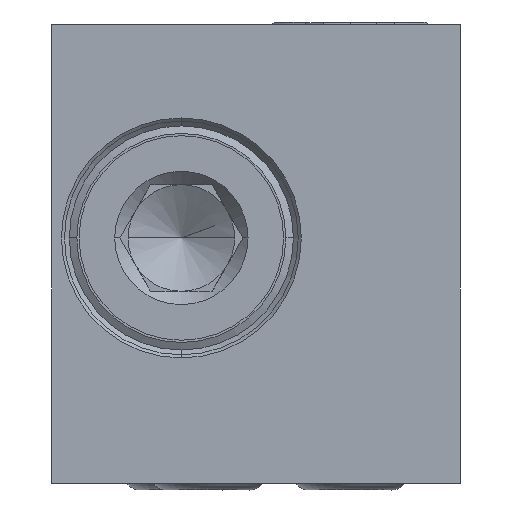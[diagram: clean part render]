
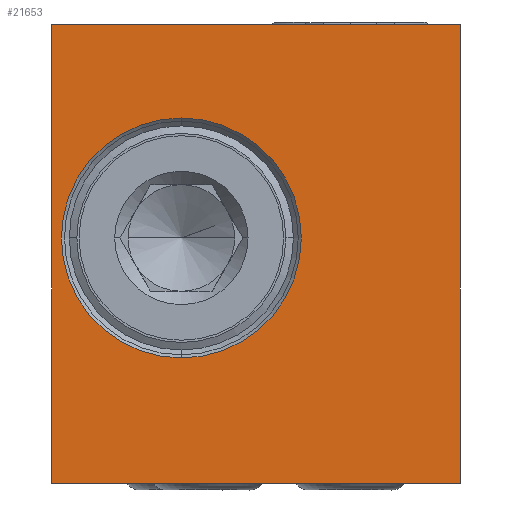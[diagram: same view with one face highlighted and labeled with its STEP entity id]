
A CAD part, left-side view. The second image highlights one B-rep face of the part: STEP entity #21653.
In plain terms, the highlighted planar face has unit normal (-1, 0, 0).
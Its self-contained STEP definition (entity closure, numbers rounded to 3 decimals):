
#3981=DIRECTION('',(0.,0.,1.));
#3982=VECTOR('',#3981,25.8);
#3983=CARTESIAN_POINT('',(-38.,11.5,-12.9));
#3984=LINE('',#3983,#3982);
#3985=DIRECTION('',(0.,-1.,0.));
#3986=VECTOR('',#3985,23.);
#3987=CARTESIAN_POINT('',(-38.,11.5,12.9));
#3988=LINE('',#3987,#3986);
#3989=DIRECTION('',(0.,0.,-1.));
#3990=VECTOR('',#3989,25.8);
#3991=CARTESIAN_POINT('',(-38.,-11.5,12.9));
#3992=LINE('',#3991,#3990);
#3993=DIRECTION('',(0.,1.,0.));
#3994=VECTOR('',#3993,23.);
#3995=CARTESIAN_POINT('',(-38.,-11.5,-12.9));
#3996=LINE('',#3995,#3994);
#3997=CARTESIAN_POINT('',(-38.,4.2,0.9));
#3998=DIRECTION('',(-1.,0.,0.));
#3999=DIRECTION('',(0.,0.,-1.));
#4000=AXIS2_PLACEMENT_3D('',#3997,#3998,#3999);
#4002=CARTESIAN_POINT('',(-38.,4.2,0.9));
#4003=DIRECTION('',(-1.,0.,0.));
#4004=DIRECTION('',(0.,0.,1.));
#4005=AXIS2_PLACEMENT_3D('',#4002,#4003,#4004);
#14851=CARTESIAN_POINT('',(-38.,11.5,12.9));
#14852=VERTEX_POINT('',#14851);
#14853=CARTESIAN_POINT('',(-38.,11.5,-12.9));
#14854=VERTEX_POINT('',#14853);
#14855=CARTESIAN_POINT('',(-38.,-11.5,12.9));
#14856=VERTEX_POINT('',#14855);
#14877=CARTESIAN_POINT('',(-38.,-11.5,-12.9));
#14878=VERTEX_POINT('',#14877);
#14923=CARTESIAN_POINT('',(-38.,4.2,-5.85));
#14924=CARTESIAN_POINT('',(-38.,4.2,7.65));
#14925=VERTEX_POINT('',#14923);
#14926=VERTEX_POINT('',#14924);
#21634=CARTESIAN_POINT('',(-38.,0.,0.));
#21635=DIRECTION('',(-1.,0.,0.));
#21636=DIRECTION('',(0.,-1.,0.));
#21637=AXIS2_PLACEMENT_3D('',#21634,#21635,#21636);
#21638=PLANE('',#21637);
#21639=ORIENTED_EDGE('',*,*,#21627,.T.);
#21640=ORIENTED_EDGE('',*,*,#19457,.T.);
#21642=ORIENTED_EDGE('',*,*,#21641,.T.);
#21644=ORIENTED_EDGE('',*,*,#21643,.T.);
#21645=EDGE_LOOP('',(#21639,#21640,#21642,#21644));
#21646=FACE_OUTER_BOUND('',#21645,.F.);
#21648=ORIENTED_EDGE('',*,*,#21647,.T.);
#21650=ORIENTED_EDGE('',*,*,#21649,.T.);
#21651=EDGE_LOOP('',(#21648,#21650));
#21652=FACE_BOUND('',#21651,.F.);
#21653=ADVANCED_FACE('',(#21646,#21652),#21638,.T.);
#4001=CIRCLE('',#4000,6.75);
#4006=CIRCLE('',#4005,6.75);
#19457=EDGE_CURVE('',#14852,#14856,#3988,.T.);
#21627=EDGE_CURVE('',#14854,#14852,#3984,.T.);
#21641=EDGE_CURVE('',#14856,#14878,#3992,.T.);
#21643=EDGE_CURVE('',#14878,#14854,#3996,.T.);
#21647=EDGE_CURVE('',#14925,#14926,#4001,.T.);
#21649=EDGE_CURVE('',#14926,#14925,#4006,.T.);
